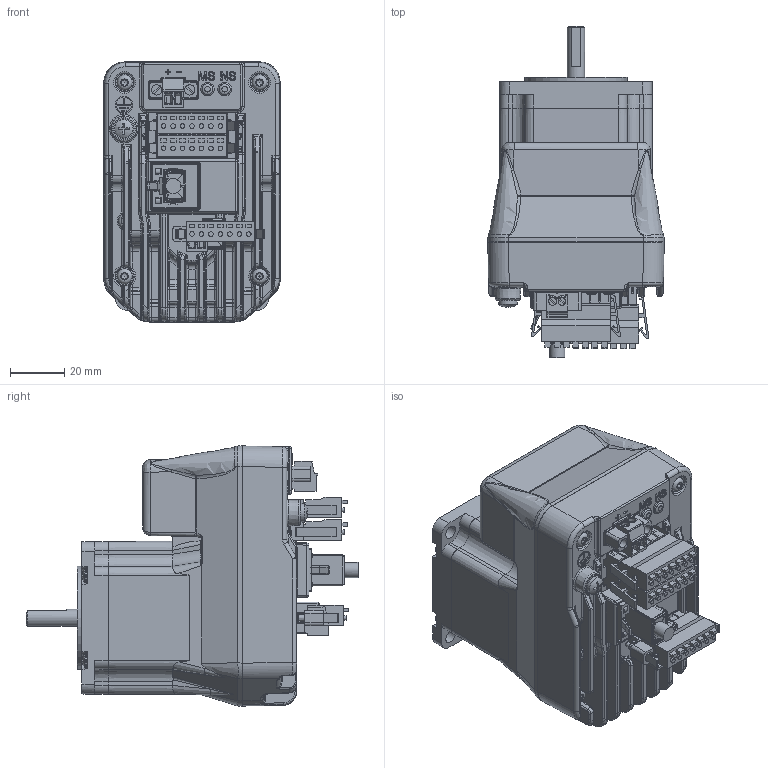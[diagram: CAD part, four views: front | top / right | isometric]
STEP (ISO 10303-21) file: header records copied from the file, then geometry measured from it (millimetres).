
FILE_DESCRIPTION(('LMDXE57-Single-Stack Web Model.stp'),'1');
FILE_NAME('T:/Kubotek Models For Design Assemblies/On-Line web models/LMD23/LMDXE57-Single-Stack Web Model.stp', '2013-04-02T15:54:37',('P. Bordua, 04/02/13'), ('Schneider Electric Motion USA'), 'KCM Version 1.1.514.0', 'Kubotek KeyCreator', 'Kubotek KeyCreator 2012 11.3.1');
FILE_SCHEMA(('AUTOMOTIVE_DESIGN'));
Length unit declared in the file: inch
Bounding box: 65.15 x 122.61 x 96.07 mm (x, y, z)
Volume: 368701 mm3; surface area: 63321.4 mm2
Topology: 9 solids, 9 shells, 4389 faces, 11228 edges, 7088 vertices
Faces by surface type: plane 2546, cylinder 940, bspline 643, cone 123, torus 77, sphere 55, extrusion 5
Full cylindrical faces by diameter (mm): 1.6 x31, 1.611 x4, 1.686 x28, 2.5 x2, 3.505 x1, 3.792 x4, 5.004 x6, 5.588 x2, 5.6 x4, 6.35 x1, 6.858 x1, 7.62 x1, 16.18 x1, 38.1 x1
Entity records: 152731 total; most frequent: CARTESIAN_POINT 63695, ORIENTED_EDGE 16928, DIRECTION 14627, EDGE_CURVE 8464, VERTEX_POINT 5328, VECTOR 5217, LINE 5212, AXIS2_PLACEMENT_3D 4705
